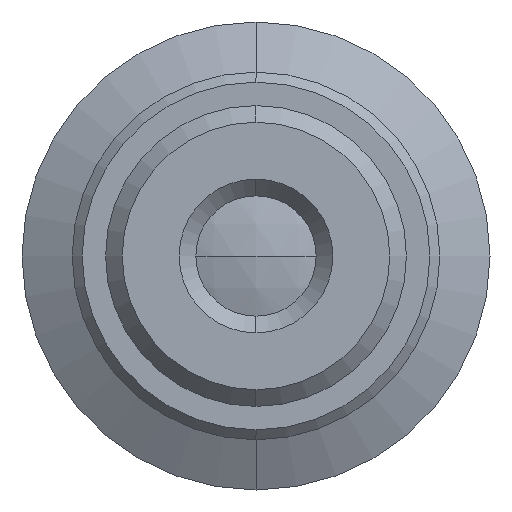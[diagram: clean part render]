
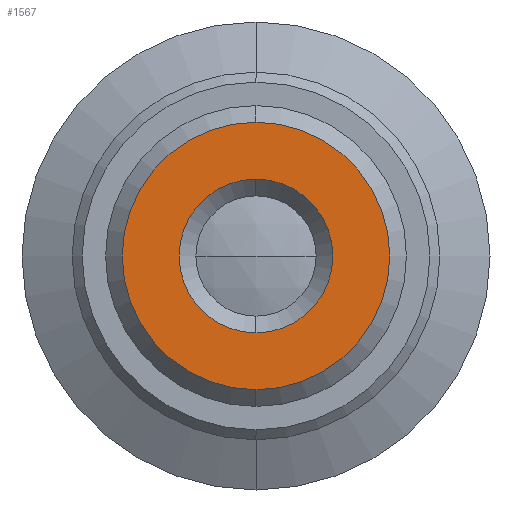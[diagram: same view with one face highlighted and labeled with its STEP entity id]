
A CAD part, left-side view. The second image highlights one B-rep face of the part: STEP entity #1567.
In plain terms, the highlighted planar face has unit normal (-1, 0, 0).
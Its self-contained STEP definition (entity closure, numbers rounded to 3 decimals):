
#28 = EDGE_CURVE ( 'NONE', #1213, #1187, #1278, .T. ) ;
#65 = CARTESIAN_POINT ( 'NONE',  ( -31.985, 0., 4. ) ) ;
#154 = ORIENTED_EDGE ( 'NONE', *, *, #28, .T. ) ;
#249 = CIRCLE ( 'NONE', #964, 2.3 ) ;
#324 = CARTESIAN_POINT ( 'NONE',  ( -31.985, 0., 0. ) ) ;
#357 = CARTESIAN_POINT ( 'NONE',  ( -31.985, 2.3, 0. ) ) ;
#502 = CIRCLE ( 'NONE', #607, 4. ) ;
#528 = EDGE_CURVE ( 'NONE', #837, #954, #249, .T. ) ;
#579 = EDGE_LOOP ( 'NONE', ( #1650, #1061 ) ) ;
#607 = AXIS2_PLACEMENT_3D ( 'NONE', #1469, #628, #783 ) ;
#624 = PLANE ( 'NONE',  #1041 ) ;
#628 = DIRECTION ( 'NONE',  ( -1., 0., 0. ) ) ;
#630 = DIRECTION ( 'NONE',  ( -1., 0., 0. ) ) ;
#634 = DIRECTION ( 'NONE',  ( 0., 0., -1. ) ) ;
#663 = DIRECTION ( 'NONE',  ( 0., 0., 1. ) ) ;
#688 = CARTESIAN_POINT ( 'NONE',  ( -31.985, 0., 2.3 ) ) ;
#738 = EDGE_CURVE ( 'NONE', #954, #837, #1204, .T. ) ;
#771 = DIRECTION ( 'NONE',  ( 0., 0., 1. ) ) ;
#783 = DIRECTION ( 'NONE',  ( 0., 0., 1. ) ) ;
#837 = VERTEX_POINT ( 'NONE', #688 ) ;
#905 = AXIS2_PLACEMENT_3D ( 'NONE', #1059, #630, #771 ) ;
#954 = VERTEX_POINT ( 'NONE', #1134 ) ;
#964 = AXIS2_PLACEMENT_3D ( 'NONE', #324, #1717, #1327 ) ;
#1041 = AXIS2_PLACEMENT_3D ( 'NONE', #357, #1479, #634 ) ;
#1054 = CARTESIAN_POINT ( 'NONE',  ( -31.985, 0., -4. ) ) ;
#1059 = CARTESIAN_POINT ( 'NONE',  ( -31.985, 0., 0. ) ) ;
#1061 = ORIENTED_EDGE ( 'NONE', *, *, #738, .F. ) ;
#1067 = FACE_BOUND ( 'NONE', #579, .T. ) ;
#1134 = CARTESIAN_POINT ( 'NONE',  ( -31.985, 0., -2.3 ) ) ;
#1187 = VERTEX_POINT ( 'NONE', #65 ) ;
#1189 = ORIENTED_EDGE ( 'NONE', *, *, #1622, .T. ) ;
#1204 = CIRCLE ( 'NONE', #905, 2.3 ) ;
#1213 = VERTEX_POINT ( 'NONE', #1054 ) ;
#1219 = CARTESIAN_POINT ( 'NONE',  ( -31.985, 0., 0. ) ) ;
#1278 = CIRCLE ( 'NONE', #1534, 4. ) ;
#1327 = DIRECTION ( 'NONE',  ( 0., 0., 1. ) ) ;
#1469 = CARTESIAN_POINT ( 'NONE',  ( -31.985, 0., 0. ) ) ;
#1479 = DIRECTION ( 'NONE',  ( 1., 0., 0. ) ) ;
#1534 = AXIS2_PLACEMENT_3D ( 'NONE', #1219, #1635, #663 ) ;
#1567 = ADVANCED_FACE ( 'NONE', ( #1067, #1792 ), #624, .F. ) ;
#1622 = EDGE_CURVE ( 'NONE', #1187, #1213, #502, .T. ) ;
#1635 = DIRECTION ( 'NONE',  ( -1., 0., 0. ) ) ;
#1650 = ORIENTED_EDGE ( 'NONE', *, *, #528, .F. ) ;
#1717 = DIRECTION ( 'NONE',  ( -1., 0., 0. ) ) ;
#1780 = EDGE_LOOP ( 'NONE', ( #154, #1189 ) ) ;
#1792 = FACE_OUTER_BOUND ( 'NONE', #1780, .T. ) ;
